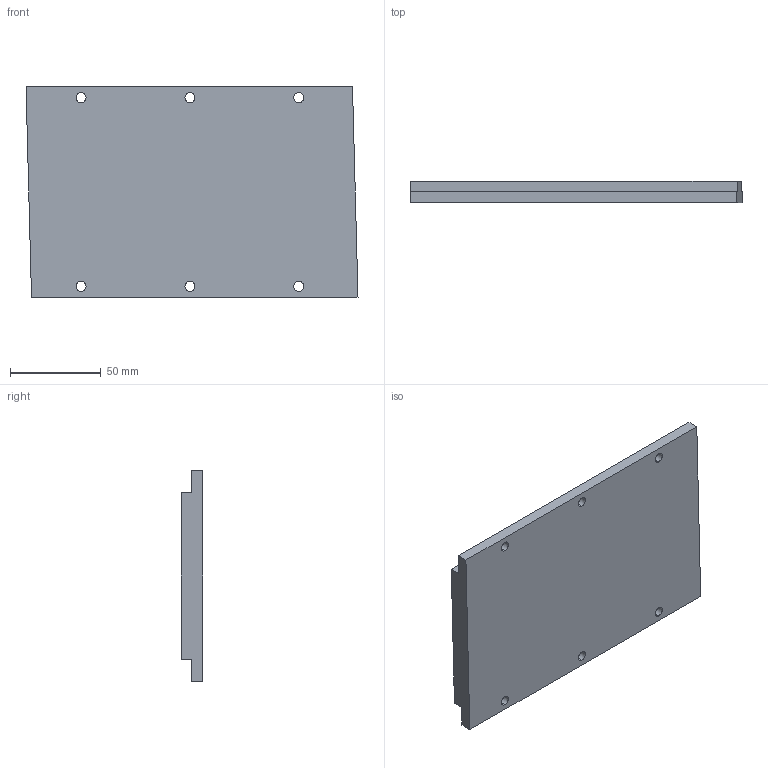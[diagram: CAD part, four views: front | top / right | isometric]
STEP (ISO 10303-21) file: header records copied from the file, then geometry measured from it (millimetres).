
FILE_DESCRIPTION (( 'STEP AP214' ), '1' );
FILE_NAME ('隅赽MK3-180.STEP', '2025-09-05T09:01:20', ( '' ), ( '' ), 'SwSTEP 2.0', 'SolidWorks 2016', '' );
FILE_SCHEMA (( 'AUTOMOTIVE_DESIGN' ));
Length unit declared in the file: millimetre
Products named in the file (1): 隅赽MK3-180
Bounding box: 183.04 x 11.7 x 116 mm (x, y, z)
Volume: 218826.6 mm3; surface area: 48773.6 mm2
Topology: 1 solids, 1 shells, 52 faces, 144 edges, 96 vertices
Faces by surface type: plane 28, cylinder 12, bspline 12
Entity records: 2390 total; most frequent: CARTESIAN_POINT 1057, ORIENTED_EDGE 288, DIRECTION 226, EDGE_CURVE 144, LINE 96, VERTEX_POINT 96, VECTOR 96, EDGE_LOOP 66
